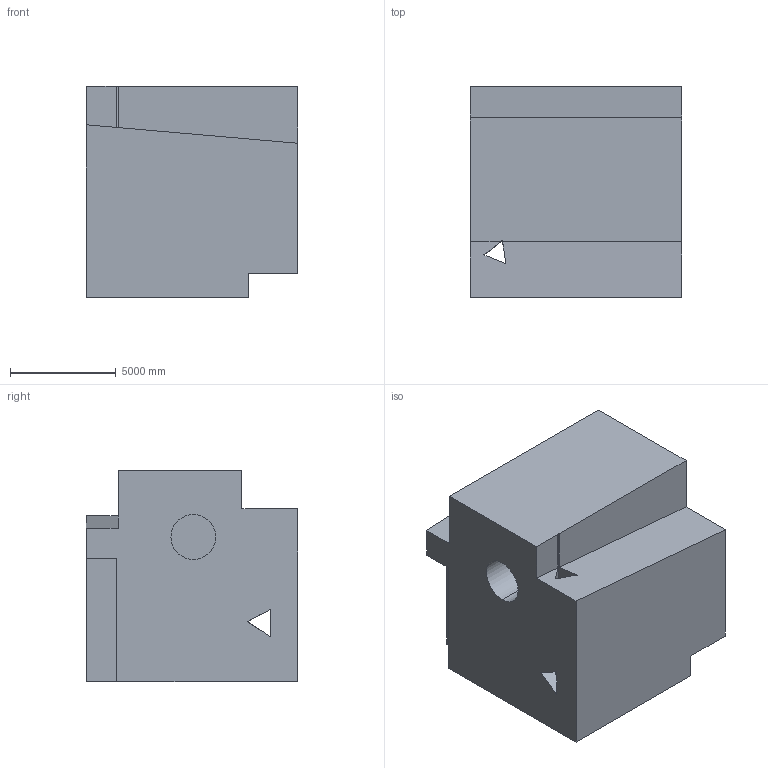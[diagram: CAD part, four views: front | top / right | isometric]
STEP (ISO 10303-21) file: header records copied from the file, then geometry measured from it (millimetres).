
FILE_DESCRIPTION (( 'STEP AP203' ), '1' );
FILE_NAME ('1724.STEP', '2022-08-19T12:05:58', ( 'user' ), ( '' ), 'SwSTEP 2.0', 'SolidWorks 2021', '' );
FILE_SCHEMA (( 'CONFIG_CONTROL_DESIGN' ));
Length unit declared in the file: centimetre
Products named in the file (1): 1724
Bounding box: 10000 x 10000 x 10000 mm (x, y, z)
Volume: 817114640014 mm3; surface area: 670727335.2 mm2
Topology: 1 solids, 1 shells, 29 faces, 87 edges, 58 vertices
Faces by surface type: plane 26, cylinder 3
Entity records: 1055 total; most frequent: CARTESIAN_POINT 178, ORIENTED_EDGE 174, DIRECTION 151, EDGE_CURVE 87, LINE 81, VECTOR 81, VERTEX_POINT 58, AXIS2_PLACEMENT_3D 35
